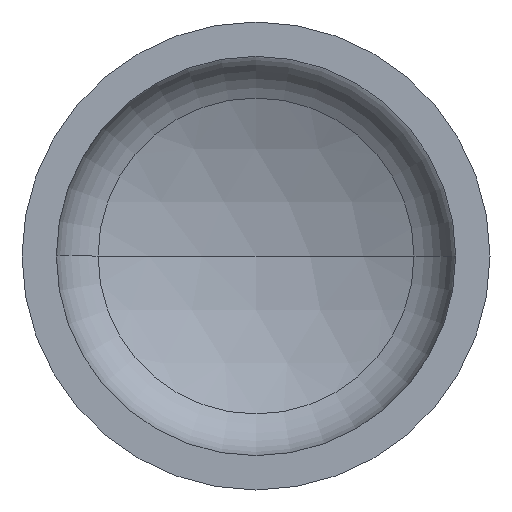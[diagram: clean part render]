
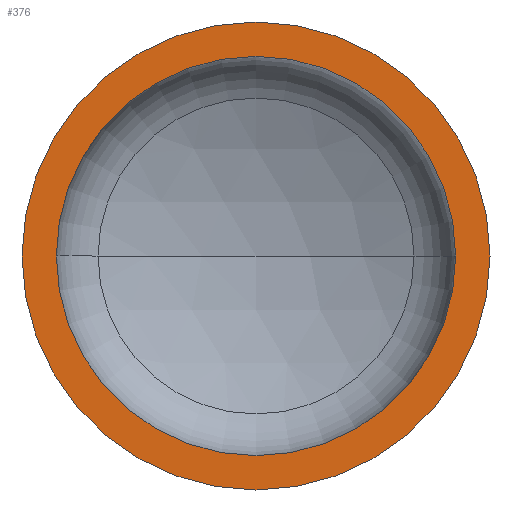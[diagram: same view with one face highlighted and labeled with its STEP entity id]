
A CAD part, front view. The second image highlights one B-rep face of the part: STEP entity #376.
In plain terms, the highlighted planar face has unit normal (0, -1, 0).
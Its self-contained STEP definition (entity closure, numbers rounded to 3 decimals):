
#24 = VERTEX_POINT ( 'NONE', #241 ) ;
#41 = VERTEX_POINT ( 'NONE', #410 ) ;
#42 = ORIENTED_EDGE ( 'NONE', *, *, #263, .F. ) ;
#43 = CARTESIAN_POINT ( 'NONE',  ( 0., 0., 0. ) ) ;
#52 = EDGE_LOOP ( 'NONE', ( #93, #42 ) ) ;
#61 = EDGE_LOOP ( 'NONE', ( #83, #69 ) ) ;
#69 = ORIENTED_EDGE ( 'NONE', *, *, #193, .T. ) ;
#82 = VERTEX_POINT ( 'NONE', #151 ) ;
#83 = ORIENTED_EDGE ( 'NONE', *, *, #138, .T. ) ;
#89 = AXIS2_PLACEMENT_3D ( 'NONE', #168, #341, #393 ) ;
#93 = ORIENTED_EDGE ( 'NONE', *, *, #181, .F. ) ;
#99 = DIRECTION ( 'NONE',  ( 0., 1., 0. ) ) ;
#135 = DIRECTION ( 'NONE',  ( 0., -1., 0. ) ) ;
#136 = VERTEX_POINT ( 'NONE', #199 ) ;
#138 = EDGE_CURVE ( 'NONE', #41, #82, #167, .T. ) ;
#145 = AXIS2_PLACEMENT_3D ( 'NONE', #348, #99, #300 ) ;
#151 = CARTESIAN_POINT ( 'NONE',  ( -600., 0., 0. ) ) ;
#157 = CIRCLE ( 'NONE', #411, 512. ) ;
#163 = DIRECTION ( 'NONE',  ( 0., -1., 0. ) ) ;
#167 = CIRCLE ( 'NONE', #345, 600. ) ;
#168 = CARTESIAN_POINT ( 'NONE',  ( 0., 0., 0. ) ) ;
#174 = PLANE ( 'NONE',  #145 ) ;
#181 = EDGE_CURVE ( 'NONE', #136, #24, #157, .T. ) ;
#193 = EDGE_CURVE ( 'NONE', #82, #41, #293, .T. ) ;
#198 = DIRECTION ( 'NONE',  ( 0., -1., 0. ) ) ;
#199 = CARTESIAN_POINT ( 'NONE',  ( 512., 0., 0. ) ) ;
#210 = CIRCLE ( 'NONE', #244, 512. ) ;
#241 = CARTESIAN_POINT ( 'NONE',  ( -512., 0., 0. ) ) ;
#242 = FACE_BOUND ( 'NONE', #52, .T. ) ;
#244 = AXIS2_PLACEMENT_3D ( 'NONE', #320, #135, #291 ) ;
#245 = DIRECTION ( 'NONE',  ( 1., 0., 0. ) ) ;
#263 = EDGE_CURVE ( 'NONE', #24, #136, #210, .T. ) ;
#291 = DIRECTION ( 'NONE',  ( 1., 0., 0. ) ) ;
#293 = CIRCLE ( 'NONE', #89, 600. ) ;
#300 = DIRECTION ( 'NONE',  ( -1., 0., 0. ) ) ;
#314 = FACE_OUTER_BOUND ( 'NONE', #61, .T. ) ;
#320 = CARTESIAN_POINT ( 'NONE',  ( 0., 0., 0. ) ) ;
#341 = DIRECTION ( 'NONE',  ( 0., -1., 0. ) ) ;
#343 = CARTESIAN_POINT ( 'NONE',  ( 0., 0., 0. ) ) ;
#345 = AXIS2_PLACEMENT_3D ( 'NONE', #43, #163, #245 ) ;
#348 = CARTESIAN_POINT ( 'NONE',  ( -600., 0., 0. ) ) ;
#366 = DIRECTION ( 'NONE',  ( 1., 0., 0. ) ) ;
#376 = ADVANCED_FACE ( 'NONE', ( #242, #314 ), #174, .F. ) ;
#393 = DIRECTION ( 'NONE',  ( 1., 0., 0. ) ) ;
#410 = CARTESIAN_POINT ( 'NONE',  ( 600., 0., 0. ) ) ;
#411 = AXIS2_PLACEMENT_3D ( 'NONE', #343, #198, #366 ) ;
